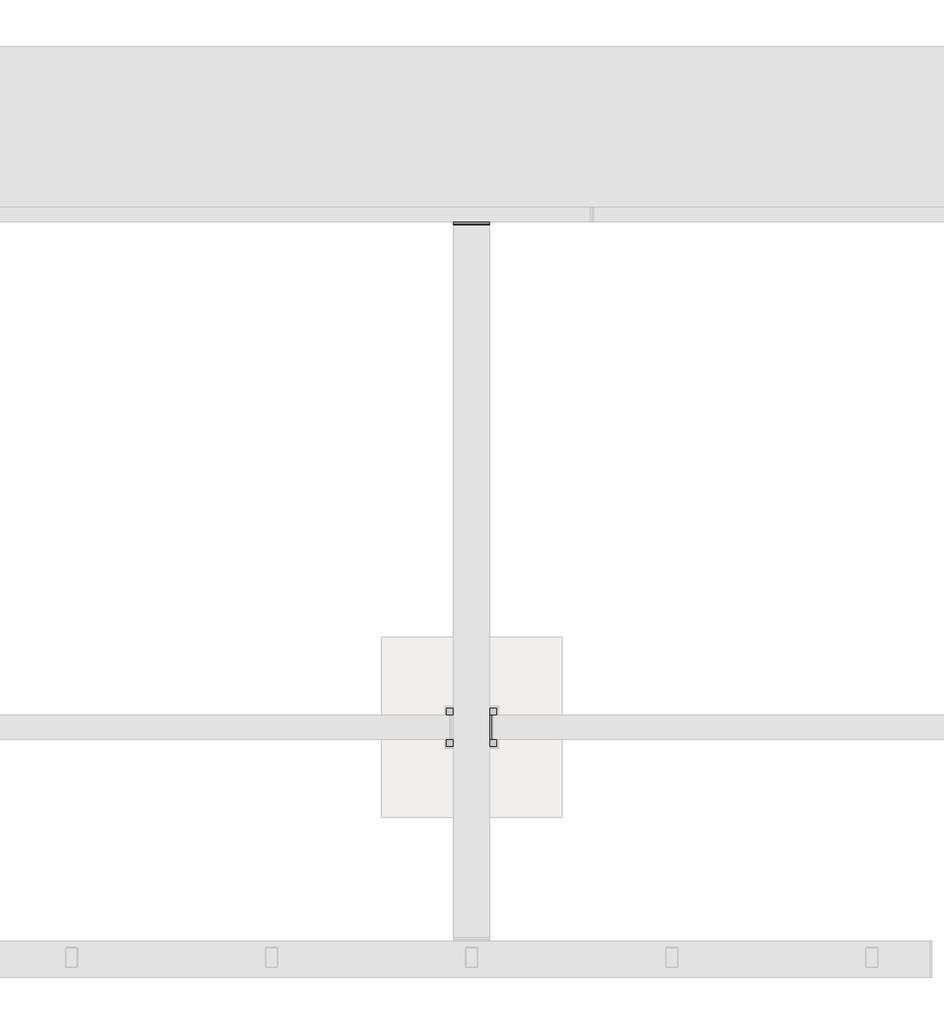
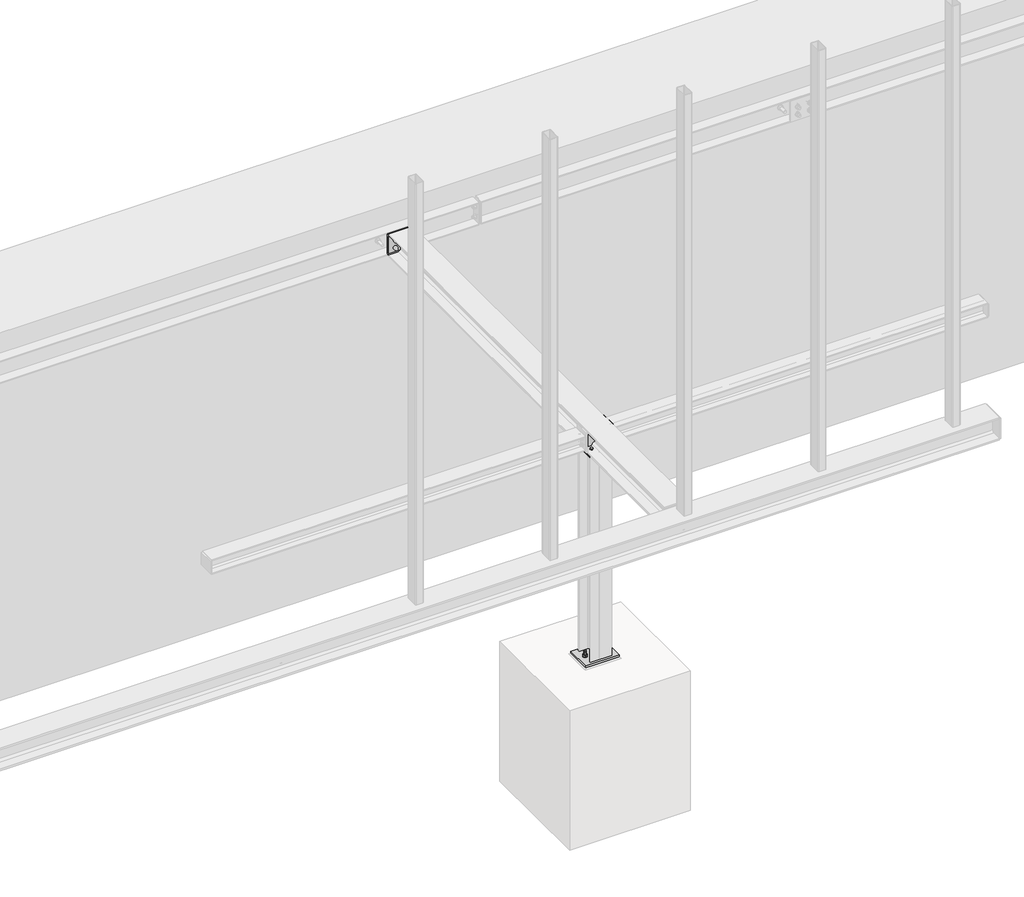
# One storey, part 8 of 31: 11 proxies.
"""IFC4 building model written with IfcOpenShell, lengths in millimetres."""

from ifc_helpers import new_model, si_unit, point, frame, frame_2d, origin, place, context, project, spatial, polyline, circle_curve, trimmed, segment, composite_curve, outline, extrude, element, save

model = new_model("IFC4")

# Units and contexts
model_context = context("Model", 3, world=origin())
ifc_project = project(units=[si_unit("LENGTHUNIT", "METRE", prefix="MILLI")], contexts=[model_context])

# Site, building, storey
site = spatial("IfcSite", under=ifc_project)
building = spatial("IfcBuilding", under=site)
storey = spatial("IfcBuildingStorey", under=building, Name="Základy", Elevation=-1200.0)

# Proxies
placement = place(None, origin())
element("IfcBuildingElementProxy", 1, Name="PLECH", ObjectType="PLECH", at=placement, inside=storey, context=model_context, shape_type="SweptSolid", body=[
    extrude(outline(polyline([(5960.0, 3775.0), (6140.0, 3775.0), (6140.0, 3767.0), (5960.0, 3767.0), (5960.0, 3775.0)])), frame((0.0, 0.0, -316.0), z_axis=(0.0, 0.0, 1.0), x_axis=(1.0, 0.0, 0.0)), (0.0, 0.0, 1.0), 132.0),
])
element("IfcBuildingElementProxy", 2, Name="PLECH", ObjectType="PLECH", at=placement, inside=storey, context=model_context, shape_type="SweptSolid", body=[
    extrude(outline(polyline([(6140.0, 1200.0), (6140.0, 1320.0), (6150.0, 1320.0), (6150.0, 1200.0), (6140.0, 1200.0)])), frame((0.0, 0.0, -332.0), z_axis=(0.0, 0.0, 1.0), x_axis=(1.0, 0.0, 0.0)), (0.0, 0.0, 1.0), 164.0),
])
element("IfcBuildingElementProxy", 3, Name="PLECH", ObjectType="PLECH", at=placement, inside=storey, context=model_context, shape_type="SweptSolid", body=[
    extrude(outline(composite_curve([segment(polyline([(-174.0, 6140.0), (-174.0, 6079.5)]), True, "CONTINUOUS"), segment(trimmed(circle_curve(frame_2d((-174.0, 6054.5)), 25.0), [point((-174.0, 6079.5))], [point((-199.0, 6054.5))], True, "CARTESIAN"), True, "CONTINUOUS"), segment(polyline([(-199.0, 6054.5), (-301.0, 6054.5)]), True, "CONTINUOUS"), segment(trimmed(circle_curve(frame_2d((-326.0, 6054.5)), 25.0), [point((-301.0, 6054.5))], [point((-326.0, 6079.5))], True, "CARTESIAN"), True, "CONTINUOUS"), segment(polyline([(-326.0, 6079.5), (-326.0, 6140.0), (-174.0, 6140.0)]), True, "CONTINUOUS")], self_intersect=False)), frame((0.0, 1256.0, 0.0), z_axis=(0.0, 1.0, 0.0), x_axis=(0.0, 0.0, 1.0)), (0.0, 0.0, 1.0), 8.0),
])
element("IfcBuildingElementProxy", 4, Name="PLECH", ObjectType="PLECH", at=placement, inside=storey, context=model_context, shape_type="SweptSolid", body=[
    extrude(outline(composite_curve([segment(polyline([(-174.0, 5960.0), (-326.0, 5960.0), (-326.0, 6020.5)]), True, "CONTINUOUS"), segment(trimmed(circle_curve(frame_2d((-326.0, 6045.5)), 25.0), [point((-326.0, 6020.5))], [point((-301.0, 6045.5))], True, "CARTESIAN"), True, "CONTINUOUS"), segment(polyline([(-301.0, 6045.5), (-199.0, 6045.5)]), True, "CONTINUOUS"), segment(trimmed(circle_curve(frame_2d((-174.0, 6045.5)), 25.0), [point((-199.0, 6045.5))], [point((-174.0, 6020.5))], True, "CARTESIAN"), True, "CONTINUOUS"), segment(polyline([(-174.0, 6020.5), (-174.0, 5960.0)]), True, "CONTINUOUS")], self_intersect=False)), frame((0.0, 1256.0, 0.0), z_axis=(0.0, 1.0, 0.0), x_axis=(0.0, 0.0, 1.0)), (0.0, 0.0, 1.0), 8.0),
])
element("IfcBuildingElementProxy", 5, Name="PLECH", ObjectType="PLECH", at=placement, inside=storey, context=model_context, shape_type="SweptSolid", body=[
    extrude(outline(polyline([(6175.0, 1356.0), (6175.0, 1164.0), (5925.0, 1164.0), (5925.0, 1356.0), (6175.0, 1356.0)])), frame((0.0, 0.0, -1990.0), z_axis=(0.0, 0.0, 1.0), x_axis=(1.0, 0.0, 0.0)), (0.0, 0.0, 1.0), 15.0),
])
element("IfcBuildingElementProxy", 6, Name="PLECH", ObjectType="PLECH", at=placement, inside=storey, context=model_context, shape_type="SweptSolid", body=[
    extrude(outline(polyline([(6140.0, 1346.0), (6140.0, 1174.0), (5960.0, 1174.0), (5960.0, 1346.0), (6140.0, 1346.0)])), frame((0.0, 0.0, -350.0), z_axis=(0.0, 0.0, 1.0), x_axis=(1.0, 0.0, 0.0)), (0.0, 0.0, 1.0), 10.0),
])
element("IfcBuildingElementProxy", 7, Name="PLECH", ObjectType="PLECH", at=placement, inside=storey, context=model_context, shape_type="SweptSolid", body=[
    extrude(outline(composite_curve([segment(polyline([(3785.0, -170.5), (3834.5, -170.5)]), True, "CONTINUOUS"), segment(trimmed(circle_curve(frame_2d((3854.5, -170.5)), 20.0), [point((3834.5, -170.5))], [point((3854.5, -190.5))], True, "CARTESIAN"), True, "CONTINUOUS"), segment(polyline([(3854.5, -190.5), (3854.5, -309.5)]), True, "CONTINUOUS"), segment(trimmed(circle_curve(frame_2d((3854.5, -329.5)), 20.0), [point((3854.5, -309.5))], [point((3834.5, -329.5))], True, "CARTESIAN"), True, "CONTINUOUS"), segment(polyline([(3834.5, -329.5), (3785.0, -329.5), (3785.0, -170.5)]), True, "CONTINUOUS")], self_intersect=False)), frame((6046.0, 0.0, 0.0), z_axis=(1.0, 0.0, 0.0), x_axis=(0.0, 1.0, 0.0)), (0.0, 0.0, 1.0), 8.0),
])
element("IfcBuildingElementProxy", 8, Name="PLECH", ObjectType="PLECH", at=placement, inside=storey, context=model_context, shape_type="SweptSolid", body=[
    extrude(outline(polyline([(5960.0, 3785.0), (6140.0, 3785.0), (6140.0, 3775.0), (5960.0, 3775.0), (5960.0, 3785.0)])), frame((0.0, 0.0, -332.0), z_axis=(0.0, 0.0, 1.0), x_axis=(1.0, 0.0, 0.0)), (0.0, 0.0, 1.0), 164.0),
])
element("IfcBuildingElementProxy", 9, Name="Bolt assembly", ObjectType="Bolt assembly", at=placement, inside=storey, context=model_context, shape_type="SweptSolid", body=[
    extrude(outline(composite_curve([segment(trimmed(circle_curve(frame_2d((1230.0, -225.0)), 6.5), [point((1230.0, -231.5))], [point((1230.0, -218.5))], False, "CARTESIAN"), True, "CONTINUOUS"), segment(trimmed(circle_curve(frame_2d((1230.0, -225.0)), 6.5), [point((1230.0, -218.5))], [point((1230.0, -231.5))], False, "CARTESIAN"), True, "CONTINUOUS")], self_intersect=False)), frame((6140.1, 0.0, 0.0), z_axis=(1.0, 0.0, 0.0), x_axis=(0.0, 1.0, 0.0)), (0.0, 0.0, 1.0), 10.0),
    extrude(outline(polyline([(1230.0, -235.3923048), (1221.0, -230.1961524), (1221.0, -219.8038476), (1230.0, -214.6076952), (1239.0, -219.8038476), (1239.0, -230.1961524), (1230.0, -235.3923048)])), frame((6130.0, 0.0, 0.0), z_axis=(1.0, 0.0, 0.0), x_axis=(0.0, 1.0, 0.0)), (0.0, 0.0, 1.0), 7.5),
    extrude(outline(composite_curve([segment(trimmed(circle_curve(frame_2d((1230.0, -225.0)), 6.0), [point((1230.0, -231.0))], [point((1230.0, -219.0))], False, "CARTESIAN"), True, "CONTINUOUS"), segment(trimmed(circle_curve(frame_2d((1230.0, -225.0)), 6.0), [point((1230.0, -219.0))], [point((1230.0, -231.0))], False, "CARTESIAN"), True, "CONTINUOUS")], self_intersect=False)), frame((6137.5, 0.0, 0.0), z_axis=(1.0, 0.0, 0.0), x_axis=(0.0, 1.0, 0.0)), (0.0, 0.0, 1.0), 40.0),
    extrude(outline(composite_curve([segment(trimmed(circle_curve(frame_2d((1230.0, -225.0)), 12.0), [point((1230.0, -237.0))], [point((1230.0, -213.0))], False, "CARTESIAN"), True, "CONTINUOUS"), segment(trimmed(circle_curve(frame_2d((1230.0, -225.0)), 12.0), [point((1230.0, -213.0))], [point((1230.0, -237.0))], False, "CARTESIAN"), True, "CONTINUOUS")], self_intersect=False)), frame((6137.5, 0.0, 0.0), z_axis=(1.0, 0.0, 0.0), x_axis=(0.0, 1.0, 0.0)), (0.0, 0.0, 1.0), 2.5),
    extrude(outline(composite_curve([segment(trimmed(circle_curve(frame_2d((1230.0, -225.0)), 12.0), [point((1230.0, -237.0))], [point((1230.0, -213.0))], False, "CARTESIAN"), True, "CONTINUOUS"), segment(trimmed(circle_curve(frame_2d((1230.0, -225.0)), 12.0), [point((1230.0, -213.0))], [point((1230.0, -237.0))], False, "CARTESIAN"), True, "CONTINUOUS")], self_intersect=False)), frame((6160.0, 0.0, 0.0), z_axis=(1.0, 0.0, 0.0), x_axis=(0.0, 1.0, 0.0)), (0.0, 0.0, 1.0), 2.5),
    extrude(outline(polyline([(1230.0, -235.9696551), (1220.5, -230.4848276), (1220.5, -219.5151724), (1230.0, -214.0303449), (1239.5, -219.5151724), (1239.5, -230.4848276), (1230.0, -235.9696551)])), frame((6162.5, 0.0, 0.0), z_axis=(1.0, 0.0, 0.0), x_axis=(0.0, 1.0, 0.0)), (0.0, 0.0, 1.0), 10.0),
    extrude(outline(composite_curve([segment(trimmed(circle_curve(frame_2d((1230.0, -225.0)), 6.5), [point((1230.0, -231.5))], [point((1230.0, -218.5))], False, "CARTESIAN"), True, "CONTINUOUS"), segment(trimmed(circle_curve(frame_2d((1230.0, -225.0)), 6.5), [point((1230.0, -218.5))], [point((1230.0, -231.5))], False, "CARTESIAN"), True, "CONTINUOUS")], self_intersect=False)), frame((6149.9, 0.0, 0.0), z_axis=(1.0, 0.0, 0.0), x_axis=(0.0, 1.0, 0.0)), (0.0, 0.0, 1.0), 10.1),
    extrude(outline(composite_curve([segment(trimmed(circle_curve(frame_2d((1230.0, -275.0)), 6.5), [point((1230.0, -281.5))], [point((1230.0, -268.5))], False, "CARTESIAN"), True, "CONTINUOUS"), segment(trimmed(circle_curve(frame_2d((1230.0, -275.0)), 6.5), [point((1230.0, -268.5))], [point((1230.0, -281.5))], False, "CARTESIAN"), True, "CONTINUOUS")], self_intersect=False)), frame((6140.1, 0.0, 0.0), z_axis=(1.0, 0.0, 0.0), x_axis=(0.0, 1.0, 0.0)), (0.0, 0.0, 1.0), 10.0),
    extrude(outline(polyline([(1230.0, -285.3923048), (1221.0, -280.1961524), (1221.0, -269.8038476), (1230.0, -264.6076952), (1239.0, -269.8038476), (1239.0, -280.1961524), (1230.0, -285.3923048)])), frame((6130.0, 0.0, 0.0), z_axis=(1.0, 0.0, 0.0), x_axis=(0.0, 1.0, 0.0)), (0.0, 0.0, 1.0), 7.5),
    extrude(outline(composite_curve([segment(trimmed(circle_curve(frame_2d((1230.0, -275.0)), 6.0), [point((1230.0, -281.0))], [point((1230.0, -269.0))], False, "CARTESIAN"), True, "CONTINUOUS"), segment(trimmed(circle_curve(frame_2d((1230.0, -275.0)), 6.0), [point((1230.0, -269.0))], [point((1230.0, -281.0))], False, "CARTESIAN"), True, "CONTINUOUS")], self_intersect=False)), frame((6137.5, 0.0, 0.0), z_axis=(1.0, 0.0, 0.0), x_axis=(0.0, 1.0, 0.0)), (0.0, 0.0, 1.0), 40.0),
    extrude(outline(composite_curve([segment(trimmed(circle_curve(frame_2d((1230.0, -275.0)), 12.0), [point((1230.0, -287.0))], [point((1230.0, -263.0))], False, "CARTESIAN"), True, "CONTINUOUS"), segment(trimmed(circle_curve(frame_2d((1230.0, -275.0)), 12.0), [point((1230.0, -263.0))], [point((1230.0, -287.0))], False, "CARTESIAN"), True, "CONTINUOUS")], self_intersect=False)), frame((6137.5, 0.0, 0.0), z_axis=(1.0, 0.0, 0.0), x_axis=(0.0, 1.0, 0.0)), (0.0, 0.0, 1.0), 2.5),
    extrude(outline(composite_curve([segment(trimmed(circle_curve(frame_2d((1230.0, -275.0)), 12.0), [point((1230.0, -287.0))], [point((1230.0, -263.0))], False, "CARTESIAN"), True, "CONTINUOUS"), segment(trimmed(circle_curve(frame_2d((1230.0, -275.0)), 12.0), [point((1230.0, -263.0))], [point((1230.0, -287.0))], False, "CARTESIAN"), True, "CONTINUOUS")], self_intersect=False)), frame((6160.0, 0.0, 0.0), z_axis=(1.0, 0.0, 0.0), x_axis=(0.0, 1.0, 0.0)), (0.0, 0.0, 1.0), 2.5),
    extrude(outline(polyline([(1230.0, -285.9696551), (1220.5, -280.4848276), (1220.5, -269.5151724), (1230.0, -264.0303449), (1239.5, -269.5151724), (1239.5, -280.4848276), (1230.0, -285.9696551)])), frame((6162.5, 0.0, 0.0), z_axis=(1.0, 0.0, 0.0), x_axis=(0.0, 1.0, 0.0)), (0.0, 0.0, 1.0), 10.0),
    extrude(outline(composite_curve([segment(trimmed(circle_curve(frame_2d((1230.0, -275.0)), 6.5), [point((1230.0, -281.5))], [point((1230.0, -268.5))], False, "CARTESIAN"), True, "CONTINUOUS"), segment(trimmed(circle_curve(frame_2d((1230.0, -275.0)), 6.5), [point((1230.0, -268.5))], [point((1230.0, -281.5))], False, "CARTESIAN"), True, "CONTINUOUS")], self_intersect=False)), frame((6149.9, 0.0, 0.0), z_axis=(1.0, 0.0, 0.0), x_axis=(0.0, 1.0, 0.0)), (0.0, 0.0, 1.0), 10.1),
    extrude(outline(composite_curve([segment(trimmed(circle_curve(frame_2d((1290.0, -225.0)), 6.5), [point((1290.0, -231.5))], [point((1290.0, -218.5))], False, "CARTESIAN"), True, "CONTINUOUS"), segment(trimmed(circle_curve(frame_2d((1290.0, -225.0)), 6.5), [point((1290.0, -218.5))], [point((1290.0, -231.5))], False, "CARTESIAN"), True, "CONTINUOUS")], self_intersect=False)), frame((6140.1, 0.0, 0.0), z_axis=(1.0, 0.0, 0.0), x_axis=(0.0, 1.0, 0.0)), (0.0, 0.0, 1.0), 10.0),
    extrude(outline(polyline([(1290.0, -235.3923048), (1281.0, -230.1961524), (1281.0, -219.8038476), (1290.0, -214.6076952), (1299.0, -219.8038476), (1299.0, -230.1961524), (1290.0, -235.3923048)])), frame((6130.0, 0.0, 0.0), z_axis=(1.0, 0.0, 0.0), x_axis=(0.0, 1.0, 0.0)), (0.0, 0.0, 1.0), 7.5),
    extrude(outline(composite_curve([segment(trimmed(circle_curve(frame_2d((1290.0, -225.0)), 6.0), [point((1290.0, -231.0))], [point((1290.0, -219.0))], False, "CARTESIAN"), True, "CONTINUOUS"), segment(trimmed(circle_curve(frame_2d((1290.0, -225.0)), 6.0), [point((1290.0, -219.0))], [point((1290.0, -231.0))], False, "CARTESIAN"), True, "CONTINUOUS")], self_intersect=False)), frame((6137.5, 0.0, 0.0), z_axis=(1.0, 0.0, 0.0), x_axis=(0.0, 1.0, 0.0)), (0.0, 0.0, 1.0), 40.0),
    extrude(outline(composite_curve([segment(trimmed(circle_curve(frame_2d((1290.0, -225.0)), 12.0), [point((1290.0, -237.0))], [point((1290.0, -213.0))], False, "CARTESIAN"), True, "CONTINUOUS"), segment(trimmed(circle_curve(frame_2d((1290.0, -225.0)), 12.0), [point((1290.0, -213.0))], [point((1290.0, -237.0))], False, "CARTESIAN"), True, "CONTINUOUS")], self_intersect=False)), frame((6137.5, 0.0, 0.0), z_axis=(1.0, 0.0, 0.0), x_axis=(0.0, 1.0, 0.0)), (0.0, 0.0, 1.0), 2.5),
    extrude(outline(composite_curve([segment(trimmed(circle_curve(frame_2d((1290.0, -225.0)), 12.0), [point((1290.0, -237.0))], [point((1290.0, -213.0))], False, "CARTESIAN"), True, "CONTINUOUS"), segment(trimmed(circle_curve(frame_2d((1290.0, -225.0)), 12.0), [point((1290.0, -213.0))], [point((1290.0, -237.0))], False, "CARTESIAN"), True, "CONTINUOUS")], self_intersect=False)), frame((6160.0, 0.0, 0.0), z_axis=(1.0, 0.0, 0.0), x_axis=(0.0, 1.0, 0.0)), (0.0, 0.0, 1.0), 2.5),
    extrude(outline(polyline([(1290.0, -235.9696551), (1280.5, -230.4848276), (1280.5, -219.5151724), (1290.0, -214.0303449), (1299.5, -219.5151724), (1299.5, -230.4848276), (1290.0, -235.9696551)])), frame((6162.5, 0.0, 0.0), z_axis=(1.0, 0.0, 0.0), x_axis=(0.0, 1.0, 0.0)), (0.0, 0.0, 1.0), 10.0),
    extrude(outline(composite_curve([segment(trimmed(circle_curve(frame_2d((1290.0, -225.0)), 6.5), [point((1290.0, -231.5))], [point((1290.0, -218.5))], False, "CARTESIAN"), True, "CONTINUOUS"), segment(trimmed(circle_curve(frame_2d((1290.0, -225.0)), 6.5), [point((1290.0, -218.5))], [point((1290.0, -231.5))], False, "CARTESIAN"), True, "CONTINUOUS")], self_intersect=False)), frame((6149.9, 0.0, 0.0), z_axis=(1.0, 0.0, 0.0), x_axis=(0.0, 1.0, 0.0)), (0.0, 0.0, 1.0), 10.1),
    extrude(outline(composite_curve([segment(trimmed(circle_curve(frame_2d((1290.0, -275.0)), 6.5), [point((1290.0, -281.5))], [point((1290.0, -268.5))], False, "CARTESIAN"), True, "CONTINUOUS"), segment(trimmed(circle_curve(frame_2d((1290.0, -275.0)), 6.5), [point((1290.0, -268.5))], [point((1290.0, -281.5))], False, "CARTESIAN"), True, "CONTINUOUS")], self_intersect=False)), frame((6140.1, 0.0, 0.0), z_axis=(1.0, 0.0, 0.0), x_axis=(0.0, 1.0, 0.0)), (0.0, 0.0, 1.0), 10.0),
    extrude(outline(polyline([(1290.0, -285.3923048), (1281.0, -280.1961524), (1281.0, -269.8038476), (1290.0, -264.6076952), (1299.0, -269.8038476), (1299.0, -280.1961524), (1290.0, -285.3923048)])), frame((6130.0, 0.0, 0.0), z_axis=(1.0, 0.0, 0.0), x_axis=(0.0, 1.0, 0.0)), (0.0, 0.0, 1.0), 7.5),
    extrude(outline(composite_curve([segment(trimmed(circle_curve(frame_2d((1290.0, -275.0)), 6.0), [point((1290.0, -281.0))], [point((1290.0, -269.0))], False, "CARTESIAN"), True, "CONTINUOUS"), segment(trimmed(circle_curve(frame_2d((1290.0, -275.0)), 6.0), [point((1290.0, -269.0))], [point((1290.0, -281.0))], False, "CARTESIAN"), True, "CONTINUOUS")], self_intersect=False)), frame((6137.5, 0.0, 0.0), z_axis=(1.0, 0.0, 0.0), x_axis=(0.0, 1.0, 0.0)), (0.0, 0.0, 1.0), 40.0),
    extrude(outline(composite_curve([segment(trimmed(circle_curve(frame_2d((1290.0, -275.0)), 12.0), [point((1290.0, -287.0))], [point((1290.0, -263.0))], False, "CARTESIAN"), True, "CONTINUOUS"), segment(trimmed(circle_curve(frame_2d((1290.0, -275.0)), 12.0), [point((1290.0, -263.0))], [point((1290.0, -287.0))], False, "CARTESIAN"), True, "CONTINUOUS")], self_intersect=False)), frame((6137.5, 0.0, 0.0), z_axis=(1.0, 0.0, 0.0), x_axis=(0.0, 1.0, 0.0)), (0.0, 0.0, 1.0), 2.5),
    extrude(outline(composite_curve([segment(trimmed(circle_curve(frame_2d((1290.0, -275.0)), 12.0), [point((1290.0, -287.0))], [point((1290.0, -263.0))], False, "CARTESIAN"), True, "CONTINUOUS"), segment(trimmed(circle_curve(frame_2d((1290.0, -275.0)), 12.0), [point((1290.0, -263.0))], [point((1290.0, -287.0))], False, "CARTESIAN"), True, "CONTINUOUS")], self_intersect=False)), frame((6160.0, 0.0, 0.0), z_axis=(1.0, 0.0, 0.0), x_axis=(0.0, 1.0, 0.0)), (0.0, 0.0, 1.0), 2.5),
    extrude(outline(polyline([(1290.0, -285.9696551), (1280.5, -280.4848276), (1280.5, -269.5151724), (1290.0, -264.0303449), (1299.5, -269.5151724), (1299.5, -280.4848276), (1290.0, -285.9696551)])), frame((6162.5, 0.0, 0.0), z_axis=(1.0, 0.0, 0.0), x_axis=(0.0, 1.0, 0.0)), (0.0, 0.0, 1.0), 10.0),
    extrude(outline(composite_curve([segment(trimmed(circle_curve(frame_2d((1290.0, -275.0)), 6.5), [point((1290.0, -281.5))], [point((1290.0, -268.5))], False, "CARTESIAN"), True, "CONTINUOUS"), segment(trimmed(circle_curve(frame_2d((1290.0, -275.0)), 6.5), [point((1290.0, -268.5))], [point((1290.0, -281.5))], False, "CARTESIAN"), True, "CONTINUOUS")], self_intersect=False)), frame((6149.9, 0.0, 0.0), z_axis=(1.0, 0.0, 0.0), x_axis=(0.0, 1.0, 0.0)), (0.0, 0.0, 1.0), 10.1),
])
element("IfcBuildingElementProxy", 10, Name="Bolt assembly", ObjectType="Bolt assembly", at=placement, inside=storey, context=model_context, shape_type="SweptSolid", body=[
    extrude(outline(polyline([(5982.7364934, 1260.0), (5978.8682467, 1253.3000002), (5971.1317533, 1253.3000002), (5967.2635066, 1260.0), (5971.1317533, 1266.6999998), (5978.8682467, 1266.6999998), (5982.7364934, 1260.0)])), frame((0.0, 0.0, -2122.0), z_axis=(0.0, 0.0, 1.0), x_axis=(1.0, 0.0, 0.0)), (0.0, 0.0, 1.0), 132.0),
    extrude(outline(composite_curve([segment(trimmed(circle_curve(frame_2d((5975.0, 1260.0)), 8.0), [point((5983.0, 1260.0))], [point((5967.0, 1260.0))], False, "CARTESIAN"), True, "CONTINUOUS"), segment(trimmed(circle_curve(frame_2d((5975.0, 1260.0)), 8.0), [point((5967.0, 1260.0))], [point((5983.0, 1260.0))], False, "CARTESIAN"), True, "CONTINUOUS")], self_intersect=False)), frame((0.0, 0.0, -1990.0), z_axis=(0.0, 0.0, 1.0), x_axis=(1.0, 0.0, 0.0)), (0.0, 0.0, 1.0), 58.0),
    extrude(outline(composite_curve([segment(trimmed(circle_curve(frame_2d((5975.0, 1260.0)), 15.0), [point((5990.0, 1260.0))], [point((5960.0, 1260.0))], False, "CARTESIAN"), True, "CONTINUOUS"), segment(trimmed(circle_curve(frame_2d((5975.0, 1260.0)), 15.0), [point((5960.0, 1260.0))], [point((5990.0, 1260.0))], False, "CARTESIAN"), True, "CONTINUOUS")], self_intersect=False)), frame((0.0, 0.0, -1975.0), z_axis=(0.0, 0.0, 1.0), x_axis=(1.0, 0.0, 0.0)), (0.0, 0.0, 1.0), 3.0),
    extrude(outline(polyline([(5990.4441197, 1260.0), (5982.7220599, 1246.625), (5967.2779401, 1246.625), (5959.5558803, 1260.0), (5967.2779401, 1273.375), (5982.7220599, 1273.375), (5990.4441197, 1260.0)])), frame((0.0, 0.0, -1972.0), z_axis=(0.0, 0.0, 1.0), x_axis=(1.0, 0.0, 0.0)), (0.0, 0.0, 1.0), 13.0),
    extrude(outline(composite_curve([segment(trimmed(circle_curve(frame_2d((5975.0, 1260.0)), 9.0), [point((5984.0, 1260.0))], [point((5966.0, 1260.0))], False, "CARTESIAN"), True, "CONTINUOUS"), segment(trimmed(circle_curve(frame_2d((5975.0, 1260.0)), 9.0), [point((5966.0, 1260.0))], [point((5984.0, 1260.0))], False, "CARTESIAN"), True, "CONTINUOUS")], self_intersect=False)), frame((0.0, 0.0, -1990.0), z_axis=(0.0, 0.0, 1.0), x_axis=(1.0, 0.0, 0.0)), (0.0, 0.0, 1.0), 15.1),
    extrude(outline(polyline([(6132.7364934, 1260.0), (6128.8682467, 1253.3000002), (6121.1317533, 1253.3000002), (6117.2635066, 1260.0), (6121.1317533, 1266.6999998), (6128.8682467, 1266.6999998), (6132.7364934, 1260.0)])), frame((0.0, 0.0, -2122.0), z_axis=(0.0, 0.0, 1.0), x_axis=(1.0, 0.0, 0.0)), (0.0, 0.0, 1.0), 132.0),
    extrude(outline(composite_curve([segment(trimmed(circle_curve(frame_2d((6125.0, 1260.0)), 8.0), [point((6133.0, 1260.0))], [point((6117.0, 1260.0))], False, "CARTESIAN"), True, "CONTINUOUS"), segment(trimmed(circle_curve(frame_2d((6125.0, 1260.0)), 8.0), [point((6117.0, 1260.0))], [point((6133.0, 1260.0))], False, "CARTESIAN"), True, "CONTINUOUS")], self_intersect=False)), frame((0.0, 0.0, -1990.0), z_axis=(0.0, 0.0, 1.0), x_axis=(1.0, 0.0, 0.0)), (0.0, 0.0, 1.0), 58.0),
    extrude(outline(composite_curve([segment(trimmed(circle_curve(frame_2d((6125.0, 1260.0)), 15.0), [point((6140.0, 1260.0))], [point((6110.0, 1260.0))], False, "CARTESIAN"), True, "CONTINUOUS"), segment(trimmed(circle_curve(frame_2d((6125.0, 1260.0)), 15.0), [point((6110.0, 1260.0))], [point((6140.0, 1260.0))], False, "CARTESIAN"), True, "CONTINUOUS")], self_intersect=False)), frame((0.0, 0.0, -1975.0), z_axis=(0.0, 0.0, 1.0), x_axis=(1.0, 0.0, 0.0)), (0.0, 0.0, 1.0), 3.0),
    extrude(outline(polyline([(6140.4441197, 1260.0), (6132.7220599, 1246.625), (6117.2779401, 1246.625), (6109.5558803, 1260.0), (6117.2779401, 1273.375), (6132.7220599, 1273.375), (6140.4441197, 1260.0)])), frame((0.0, 0.0, -1972.0), z_axis=(0.0, 0.0, 1.0), x_axis=(1.0, 0.0, 0.0)), (0.0, 0.0, 1.0), 13.0),
    extrude(outline(composite_curve([segment(trimmed(circle_curve(frame_2d((6125.0, 1260.0)), 9.0), [point((6134.0, 1260.0))], [point((6116.0, 1260.0))], False, "CARTESIAN"), True, "CONTINUOUS"), segment(trimmed(circle_curve(frame_2d((6125.0, 1260.0)), 9.0), [point((6116.0, 1260.0))], [point((6134.0, 1260.0))], False, "CARTESIAN"), True, "CONTINUOUS")], self_intersect=False)), frame((0.0, 0.0, -1990.0), z_axis=(0.0, 0.0, 1.0), x_axis=(1.0, 0.0, 0.0)), (0.0, 0.0, 1.0), 15.1),
])
element("IfcBuildingElementProxy", 11, Name="Bolt assembly", ObjectType="Bolt assembly", at=placement, inside=storey, context=model_context, shape_type="SweptSolid", body=[
    extrude(outline(composite_curve([segment(trimmed(circle_curve(frame_2d((6000.0, 1220.0)), 6.5), [point((6006.5, 1220.0))], [point((5993.5, 1220.0))], False, "CARTESIAN"), True, "CONTINUOUS"), segment(trimmed(circle_curve(frame_2d((6000.0, 1220.0)), 6.5), [point((5993.5, 1220.0))], [point((6006.5, 1220.0))], False, "CARTESIAN"), True, "CONTINUOUS")], self_intersect=False)), frame((0.0, 0.0, -350.0), z_axis=(0.0, 0.0, 1.0), x_axis=(1.0, 0.0, 0.0)), (0.0, 0.0, 1.0), 10.1),
    extrude(outline(polyline([(6010.3923048, 1220.0), (6005.1961524, 1211.0), (5994.8038476, 1211.0), (5989.6076952, 1220.0), (5994.8038476, 1229.0), (6005.1961524, 1229.0), (6010.3923048, 1220.0)])), frame((0.0, 0.0, -323.5), z_axis=(0.0, 0.0, 1.0), x_axis=(1.0, 0.0, 0.0)), (0.0, 0.0, 1.0), 7.5),
    extrude(outline(composite_curve([segment(trimmed(circle_curve(frame_2d((6000.0, 1220.0)), 6.0), [point((6006.0, 1220.0))], [point((5994.0, 1220.0))], False, "CARTESIAN"), True, "CONTINUOUS"), segment(trimmed(circle_curve(frame_2d((6000.0, 1220.0)), 6.0), [point((5994.0, 1220.0))], [point((6006.0, 1220.0))], False, "CARTESIAN"), True, "CONTINUOUS")], self_intersect=False)), frame((0.0, 0.0, -368.5), z_axis=(0.0, 0.0, 1.0), x_axis=(1.0, 0.0, 0.0)), (0.0, 0.0, 1.0), 45.0),
    extrude(outline(composite_curve([segment(trimmed(circle_curve(frame_2d((6000.0, 1220.0)), 12.0), [point((6012.0, 1220.0))], [point((5988.0, 1220.0))], False, "CARTESIAN"), True, "CONTINUOUS"), segment(trimmed(circle_curve(frame_2d((6000.0, 1220.0)), 12.0), [point((5988.0, 1220.0))], [point((6012.0, 1220.0))], False, "CARTESIAN"), True, "CONTINUOUS")], self_intersect=False)), frame((0.0, 0.0, -326.0), z_axis=(0.0, 0.0, 1.0), x_axis=(1.0, 0.0, 0.0)), (0.0, 0.0, 1.0), 2.5),
    extrude(outline(composite_curve([segment(trimmed(circle_curve(frame_2d((6000.0, 1220.0)), 12.0), [point((6012.0, 1220.0))], [point((5988.0, 1220.0))], False, "CARTESIAN"), True, "CONTINUOUS"), segment(trimmed(circle_curve(frame_2d((6000.0, 1220.0)), 12.0), [point((5988.0, 1220.0))], [point((6012.0, 1220.0))], False, "CARTESIAN"), True, "CONTINUOUS")], self_intersect=False)), frame((0.0, 0.0, -352.5), z_axis=(0.0, 0.0, 1.0), x_axis=(1.0, 0.0, 0.0)), (0.0, 0.0, 1.0), 2.5),
    extrude(outline(polyline([(6010.9696551, 1220.0), (6005.4848276, 1210.5), (5994.5151724, 1210.5), (5989.0303449, 1220.0), (5994.5151724, 1229.5), (6005.4848276, 1229.5), (6010.9696551, 1220.0)])), frame((0.0, 0.0, -362.5), z_axis=(0.0, 0.0, 1.0), x_axis=(1.0, 0.0, 0.0)), (0.0, 0.0, 1.0), 10.0),
    extrude(outline(composite_curve([segment(trimmed(circle_curve(frame_2d((6000.0, 1220.0)), 6.5), [point((6006.5, 1220.0))], [point((5993.5, 1220.0))], False, "CARTESIAN"), True, "CONTINUOUS"), segment(trimmed(circle_curve(frame_2d((6000.0, 1220.0)), 6.5), [point((5993.5, 1220.0))], [point((6006.5, 1220.0))], False, "CARTESIAN"), True, "CONTINUOUS")], self_intersect=False)), frame((0.0, 0.0, -340.1), z_axis=(0.0, 0.0, 1.0), x_axis=(1.0, 0.0, 0.0)), (0.0, 0.0, 1.0), 14.0),
    extrude(outline(composite_curve([segment(trimmed(circle_curve(frame_2d((6100.0, 1220.0)), 6.5), [point((6106.5, 1220.0))], [point((6093.5, 1220.0))], False, "CARTESIAN"), True, "CONTINUOUS"), segment(trimmed(circle_curve(frame_2d((6100.0, 1220.0)), 6.5), [point((6093.5, 1220.0))], [point((6106.5, 1220.0))], False, "CARTESIAN"), True, "CONTINUOUS")], self_intersect=False)), frame((0.0, 0.0, -350.0), z_axis=(0.0, 0.0, 1.0), x_axis=(1.0, 0.0, 0.0)), (0.0, 0.0, 1.0), 10.1),
    extrude(outline(polyline([(6110.3923048, 1220.0), (6105.1961524, 1211.0), (6094.8038476, 1211.0), (6089.6076952, 1220.0), (6094.8038476, 1229.0), (6105.1961524, 1229.0), (6110.3923048, 1220.0)])), frame((0.0, 0.0, -323.5), z_axis=(0.0, 0.0, 1.0), x_axis=(1.0, 0.0, 0.0)), (0.0, 0.0, 1.0), 7.5),
    extrude(outline(composite_curve([segment(trimmed(circle_curve(frame_2d((6100.0, 1220.0)), 6.0), [point((6106.0, 1220.0))], [point((6094.0, 1220.0))], False, "CARTESIAN"), True, "CONTINUOUS"), segment(trimmed(circle_curve(frame_2d((6100.0, 1220.0)), 6.0), [point((6094.0, 1220.0))], [point((6106.0, 1220.0))], False, "CARTESIAN"), True, "CONTINUOUS")], self_intersect=False)), frame((0.0, 0.0, -368.5), z_axis=(0.0, 0.0, 1.0), x_axis=(1.0, 0.0, 0.0)), (0.0, 0.0, 1.0), 45.0),
    extrude(outline(composite_curve([segment(trimmed(circle_curve(frame_2d((6100.0, 1220.0)), 12.0), [point((6112.0, 1220.0))], [point((6088.0, 1220.0))], False, "CARTESIAN"), True, "CONTINUOUS"), segment(trimmed(circle_curve(frame_2d((6100.0, 1220.0)), 12.0), [point((6088.0, 1220.0))], [point((6112.0, 1220.0))], False, "CARTESIAN"), True, "CONTINUOUS")], self_intersect=False)), frame((0.0, 0.0, -326.0), z_axis=(0.0, 0.0, 1.0), x_axis=(1.0, 0.0, 0.0)), (0.0, 0.0, 1.0), 2.5),
    extrude(outline(composite_curve([segment(trimmed(circle_curve(frame_2d((6100.0, 1220.0)), 12.0), [point((6112.0, 1220.0))], [point((6088.0, 1220.0))], False, "CARTESIAN"), True, "CONTINUOUS"), segment(trimmed(circle_curve(frame_2d((6100.0, 1220.0)), 12.0), [point((6088.0, 1220.0))], [point((6112.0, 1220.0))], False, "CARTESIAN"), True, "CONTINUOUS")], self_intersect=False)), frame((0.0, 0.0, -352.5), z_axis=(0.0, 0.0, 1.0), x_axis=(1.0, 0.0, 0.0)), (0.0, 0.0, 1.0), 2.5),
    extrude(outline(polyline([(6110.9696551, 1220.0), (6105.4848276, 1210.5), (6094.5151724, 1210.5), (6089.0303449, 1220.0), (6094.5151724, 1229.5), (6105.4848276, 1229.5), (6110.9696551, 1220.0)])), frame((0.0, 0.0, -362.5), z_axis=(0.0, 0.0, 1.0), x_axis=(1.0, 0.0, 0.0)), (0.0, 0.0, 1.0), 10.0),
    extrude(outline(composite_curve([segment(trimmed(circle_curve(frame_2d((6100.0, 1220.0)), 6.5), [point((6106.5, 1220.0))], [point((6093.5, 1220.0))], False, "CARTESIAN"), True, "CONTINUOUS"), segment(trimmed(circle_curve(frame_2d((6100.0, 1220.0)), 6.5), [point((6093.5, 1220.0))], [point((6106.5, 1220.0))], False, "CARTESIAN"), True, "CONTINUOUS")], self_intersect=False)), frame((0.0, 0.0, -340.1), z_axis=(0.0, 0.0, 1.0), x_axis=(1.0, 0.0, 0.0)), (0.0, 0.0, 1.0), 14.0),
    extrude(outline(composite_curve([segment(trimmed(circle_curve(frame_2d((6000.0, 1300.0)), 6.5), [point((6006.5, 1300.0))], [point((5993.5, 1300.0))], False, "CARTESIAN"), True, "CONTINUOUS"), segment(trimmed(circle_curve(frame_2d((6000.0, 1300.0)), 6.5), [point((5993.5, 1300.0))], [point((6006.5, 1300.0))], False, "CARTESIAN"), True, "CONTINUOUS")], self_intersect=False)), frame((0.0, 0.0, -350.0), z_axis=(0.0, 0.0, 1.0), x_axis=(1.0, 0.0, 0.0)), (0.0, 0.0, 1.0), 10.1),
    extrude(outline(polyline([(6010.3923048, 1300.0), (6005.1961524, 1291.0), (5994.8038476, 1291.0), (5989.6076952, 1300.0), (5994.8038476, 1309.0), (6005.1961524, 1309.0), (6010.3923048, 1300.0)])), frame((0.0, 0.0, -323.5), z_axis=(0.0, 0.0, 1.0), x_axis=(1.0, 0.0, 0.0)), (0.0, 0.0, 1.0), 7.5),
    extrude(outline(composite_curve([segment(trimmed(circle_curve(frame_2d((6000.0, 1300.0)), 6.0), [point((6006.0, 1300.0))], [point((5994.0, 1300.0))], False, "CARTESIAN"), True, "CONTINUOUS"), segment(trimmed(circle_curve(frame_2d((6000.0, 1300.0)), 6.0), [point((5994.0, 1300.0))], [point((6006.0, 1300.0))], False, "CARTESIAN"), True, "CONTINUOUS")], self_intersect=False)), frame((0.0, 0.0, -368.5), z_axis=(0.0, 0.0, 1.0), x_axis=(1.0, 0.0, 0.0)), (0.0, 0.0, 1.0), 45.0),
    extrude(outline(composite_curve([segment(trimmed(circle_curve(frame_2d((6000.0, 1300.0)), 12.0), [point((6012.0, 1300.0))], [point((5988.0, 1300.0))], False, "CARTESIAN"), True, "CONTINUOUS"), segment(trimmed(circle_curve(frame_2d((6000.0, 1300.0)), 12.0), [point((5988.0, 1300.0))], [point((6012.0, 1300.0))], False, "CARTESIAN"), True, "CONTINUOUS")], self_intersect=False)), frame((0.0, 0.0, -326.0), z_axis=(0.0, 0.0, 1.0), x_axis=(1.0, 0.0, 0.0)), (0.0, 0.0, 1.0), 2.5),
    extrude(outline(composite_curve([segment(trimmed(circle_curve(frame_2d((6000.0, 1300.0)), 12.0), [point((6012.0, 1300.0))], [point((5988.0, 1300.0))], False, "CARTESIAN"), True, "CONTINUOUS"), segment(trimmed(circle_curve(frame_2d((6000.0, 1300.0)), 12.0), [point((5988.0, 1300.0))], [point((6012.0, 1300.0))], False, "CARTESIAN"), True, "CONTINUOUS")], self_intersect=False)), frame((0.0, 0.0, -352.5), z_axis=(0.0, 0.0, 1.0), x_axis=(1.0, 0.0, 0.0)), (0.0, 0.0, 1.0), 2.5),
    extrude(outline(polyline([(6010.9696551, 1300.0), (6005.4848276, 1290.5), (5994.5151724, 1290.5), (5989.0303449, 1300.0), (5994.5151724, 1309.5), (6005.4848276, 1309.5), (6010.9696551, 1300.0)])), frame((0.0, 0.0, -362.5), z_axis=(0.0, 0.0, 1.0), x_axis=(1.0, 0.0, 0.0)), (0.0, 0.0, 1.0), 10.0),
    extrude(outline(composite_curve([segment(trimmed(circle_curve(frame_2d((6000.0, 1300.0)), 6.5), [point((6006.5, 1300.0))], [point((5993.5, 1300.0))], False, "CARTESIAN"), True, "CONTINUOUS"), segment(trimmed(circle_curve(frame_2d((6000.0, 1300.0)), 6.5), [point((5993.5, 1300.0))], [point((6006.5, 1300.0))], False, "CARTESIAN"), True, "CONTINUOUS")], self_intersect=False)), frame((0.0, 0.0, -340.1), z_axis=(0.0, 0.0, 1.0), x_axis=(1.0, 0.0, 0.0)), (0.0, 0.0, 1.0), 14.0),
    extrude(outline(composite_curve([segment(trimmed(circle_curve(frame_2d((6100.0, 1300.0)), 6.5), [point((6106.5, 1300.0))], [point((6093.5, 1300.0))], False, "CARTESIAN"), True, "CONTINUOUS"), segment(trimmed(circle_curve(frame_2d((6100.0, 1300.0)), 6.5), [point((6093.5, 1300.0))], [point((6106.5, 1300.0))], False, "CARTESIAN"), True, "CONTINUOUS")], self_intersect=False)), frame((0.0, 0.0, -350.0), z_axis=(0.0, 0.0, 1.0), x_axis=(1.0, 0.0, 0.0)), (0.0, 0.0, 1.0), 10.1),
    extrude(outline(polyline([(6110.3923048, 1300.0), (6105.1961524, 1291.0), (6094.8038476, 1291.0), (6089.6076952, 1300.0), (6094.8038476, 1309.0), (6105.1961524, 1309.0), (6110.3923048, 1300.0)])), frame((0.0, 0.0, -323.5), z_axis=(0.0, 0.0, 1.0), x_axis=(1.0, 0.0, 0.0)), (0.0, 0.0, 1.0), 7.5),
    extrude(outline(composite_curve([segment(trimmed(circle_curve(frame_2d((6100.0, 1300.0)), 6.0), [point((6106.0, 1300.0))], [point((6094.0, 1300.0))], False, "CARTESIAN"), True, "CONTINUOUS"), segment(trimmed(circle_curve(frame_2d((6100.0, 1300.0)), 6.0), [point((6094.0, 1300.0))], [point((6106.0, 1300.0))], False, "CARTESIAN"), True, "CONTINUOUS")], self_intersect=False)), frame((0.0, 0.0, -368.5), z_axis=(0.0, 0.0, 1.0), x_axis=(1.0, 0.0, 0.0)), (0.0, 0.0, 1.0), 45.0),
    extrude(outline(composite_curve([segment(trimmed(circle_curve(frame_2d((6100.0, 1300.0)), 12.0), [point((6112.0, 1300.0))], [point((6088.0, 1300.0))], False, "CARTESIAN"), True, "CONTINUOUS"), segment(trimmed(circle_curve(frame_2d((6100.0, 1300.0)), 12.0), [point((6088.0, 1300.0))], [point((6112.0, 1300.0))], False, "CARTESIAN"), True, "CONTINUOUS")], self_intersect=False)), frame((0.0, 0.0, -326.0), z_axis=(0.0, 0.0, 1.0), x_axis=(1.0, 0.0, 0.0)), (0.0, 0.0, 1.0), 2.5),
    extrude(outline(composite_curve([segment(trimmed(circle_curve(frame_2d((6100.0, 1300.0)), 12.0), [point((6112.0, 1300.0))], [point((6088.0, 1300.0))], False, "CARTESIAN"), True, "CONTINUOUS"), segment(trimmed(circle_curve(frame_2d((6100.0, 1300.0)), 12.0), [point((6088.0, 1300.0))], [point((6112.0, 1300.0))], False, "CARTESIAN"), True, "CONTINUOUS")], self_intersect=False)), frame((0.0, 0.0, -352.5), z_axis=(0.0, 0.0, 1.0), x_axis=(1.0, 0.0, 0.0)), (0.0, 0.0, 1.0), 2.5),
    extrude(outline(polyline([(6110.9696551, 1300.0), (6105.4848276, 1290.5), (6094.5151724, 1290.5), (6089.0303449, 1300.0), (6094.5151724, 1309.5), (6105.4848276, 1309.5), (6110.9696551, 1300.0)])), frame((0.0, 0.0, -362.5), z_axis=(0.0, 0.0, 1.0), x_axis=(1.0, 0.0, 0.0)), (0.0, 0.0, 1.0), 10.0),
    extrude(outline(composite_curve([segment(trimmed(circle_curve(frame_2d((6100.0, 1300.0)), 6.5), [point((6106.5, 1300.0))], [point((6093.5, 1300.0))], False, "CARTESIAN"), True, "CONTINUOUS"), segment(trimmed(circle_curve(frame_2d((6100.0, 1300.0)), 6.5), [point((6093.5, 1300.0))], [point((6106.5, 1300.0))], False, "CARTESIAN"), True, "CONTINUOUS")], self_intersect=False)), frame((0.0, 0.0, -340.1), z_axis=(0.0, 0.0, 1.0), x_axis=(1.0, 0.0, 0.0)), (0.0, 0.0, 1.0), 14.0),
])

save(model, "model.ifc")
